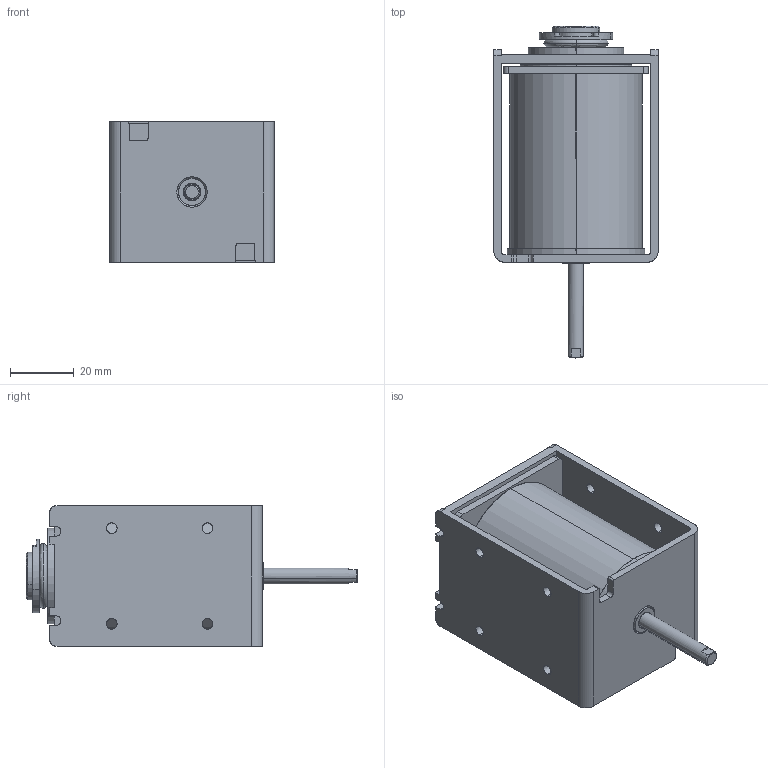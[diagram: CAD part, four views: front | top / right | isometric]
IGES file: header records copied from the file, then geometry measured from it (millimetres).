
Start section: SolidWorks IGES file using analytic representation for surfaces
Global section: file name: L:\カタログ\web用3Dデータ\CB1567\3D_CB1567\w_cb1567.IGS; native system: SolidWorks 2014; preprocessor: SolidWorks 2014; author: jiba; date: 140723.114129; units: millimetre
Bounding box: 51.5 x 104.1 x 44 mm (x, y, z)
Surface area: 45221.4 mm2 (no closed solid volume)
Topology: 0 solids, 0 shells, 192 faces, 3401 edges, 3401 vertices
Faces by surface type: revolution 98, bspline 94
